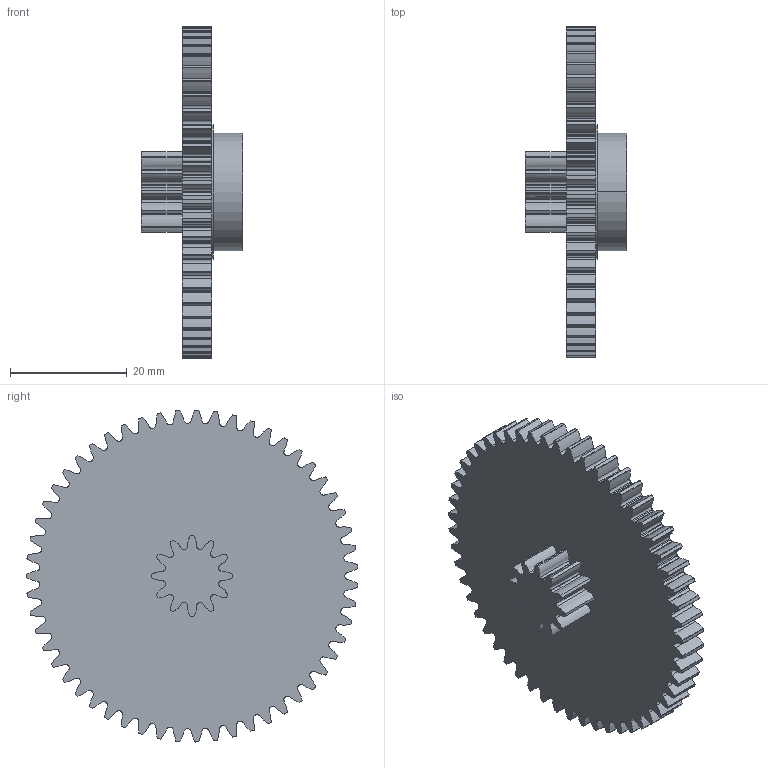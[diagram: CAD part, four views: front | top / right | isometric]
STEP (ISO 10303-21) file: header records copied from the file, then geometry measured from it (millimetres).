
FILE_DESCRIPTION (( 'STEP AP214' ), '1' );
FILE_NAME ('GEAR_55T.STEP', '2020-08-29T12:52:12', ( '' ), ( '' ), 'SwSTEP 2.0', 'SolidWorks 2020', '' );
FILE_SCHEMA (( 'AUTOMOTIVE_DESIGN' ));
Length unit declared in the file: millimetre
Products named in the file (1): GEAR_55T
Bounding box: 17.3 x 56.77 x 56.79 mm (x, y, z)
Volume: 14103.6 mm3; surface area: 7163.5 mm2
Topology: 1 solids, 1 shells, 569 faces, 1692 edges, 1128 vertices
Faces by surface type: cylinder 430, bspline 134, plane 5
Entity records: 22068 total; most frequent: CARTESIAN_POINT 6836, ORIENTED_EDGE 3384, DIRECTION 3156, EDGE_CURVE 1692, AXIS2_PLACEMENT_3D 1296, VERTEX_POINT 1128, CIRCLE 860, EDGE_LOOP 572
